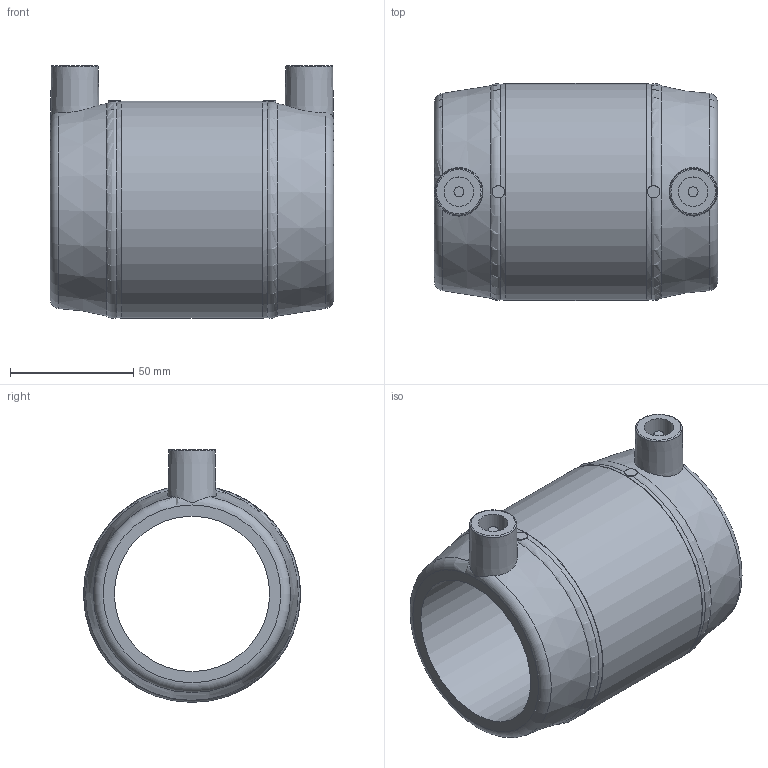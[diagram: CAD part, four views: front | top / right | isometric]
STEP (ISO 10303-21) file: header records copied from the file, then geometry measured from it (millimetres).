
FILE_DESCRIPTION(/* description */ ('Unknown'),/* implementation_level */ '2;1');
FILE_NAME(/* name */ 'MP063H',/* time_stamp */ '2021-05-26T17:27:18+02:00',/* author */ ('Unknown'),/* organization */ ('Unknown'),/* preprocessor_version */ 'ST-DEVELOPER v16.7',/* originating_system */ 'Solid Edge',/* authorisation */ 'Unknown');
FILE_SCHEMA (('AUTOMOTIVE_DESIGN {1 0 10303 214 3 1 1}'));
Length unit declared in the file: millimetre
Products named in the file (1): MP063H
Bounding box: 115 x 88 x 102.5 mm (x, y, z)
Volume: 312971.4 mm3; surface area: 60587.4 mm2
Topology: 1 solids, 1 shells, 32 faces, 70 edges, 44 vertices
Faces by surface type: plane 10, torus 8, cylinder 8, cone 6
Full cylindrical faces by diameter (mm): 4 x2, 5 x2, 12 x2, 63 x1, 88 x1
Entity records: 764 total; most frequent: CARTESIAN_POINT 187, DIRECTION 122, ORIENTED_EDGE 72, AXIS2_PLACEMENT_3D 61, EDGE_LOOP 60, FACE_BOUND 60, EDGE_CURVE 36, VERTEX_POINT 32
